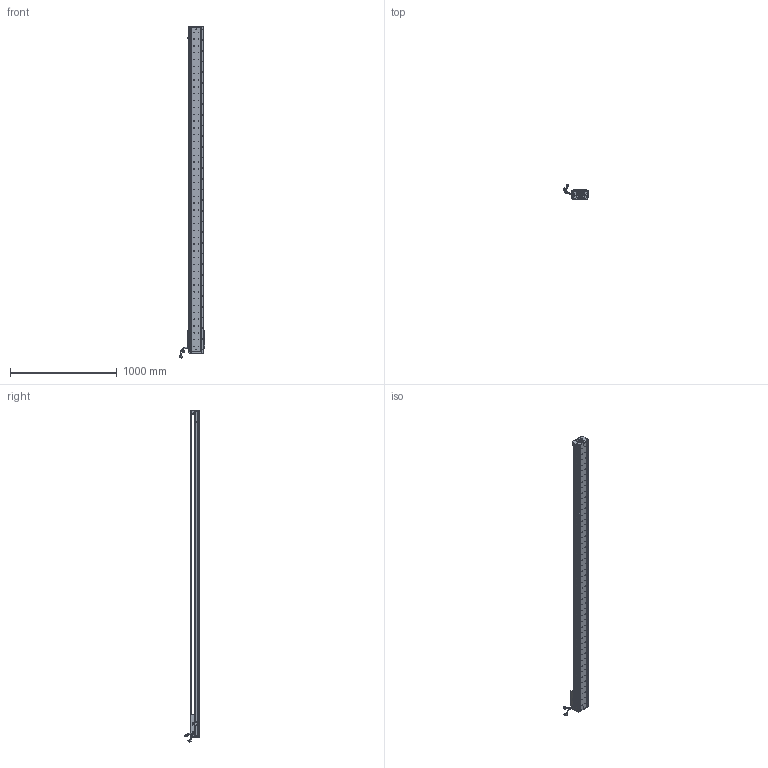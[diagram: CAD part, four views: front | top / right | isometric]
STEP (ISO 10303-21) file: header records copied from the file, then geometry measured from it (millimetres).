
FILE_DESCRIPTION (( 'STEP AP203' ), '1' );
FILE_NAME ('Z2-RY140D-1-L500-B-K.SLDASM_2800.step', '2021-05-17T07:51:16', ( '盈信电脑' ), ( '东莞市道滘镇水果街19号' ), 'SwSTEP 2.0', 'SolidWorks 2016', '' );
FILE_SCHEMA (( 'CONFIG_CONTROL_DESIGN' ));
Length unit declared in the file: millimetre
Products named in the file (36): SCALE-Part-2; SCREW-M1.6-3; PBU_SHEET; SHIELDPLATE; SEAL-Part-1; SCREW-M1.7; Z-RY140詩湍狟揤裔; SCREW-M1.6; 榋妏寠巭燃_暯_M2_2; Z-140詩湍傷裔啣; LABEL-Part-1; 140-Z-臏賑輸盄裔(21遴); COVER; 覜茼ん672; Z2-RY140圉猾敕臏賑輸(21遴); Z-RY140感应器672光电感应片; PSLH080_PSLF2; 140蚥薯蝶輸; HARNESS-Part-2; HOLDER0; COVER-Part-1; HARNESS-Part-1; 140雄赽晤鎢ん堤盄; Z2-RY140D-1-L500-B-K.SLDASM_2800; Z2-RY140-L500詩湍100mm遵_2800; Z-RY140詩湍奻揤裔; HARNESS; LABEL; SCREW-M1.6-1; SCREW-M1.6-2; SEAL; SCALE-Part-1; SCALE; Z2-RY140-L500直线电机模组底座_2800; SCREW-M1.7-1; 080黍杅芛假蚾釱21遴
Assembly tree (41 placements, depth 4):
  Z2-RY140D-1-L500-B-K.SLDASM_2800
    Z2-RY140-L500直线电机模组底座_2800
    Z-RY140感应器672光电感应片
    Z2-RY140圉猾敕臏賑輸(21遴)
    覜茼ん672  x3
    Z2-RY140-L500詩湍100mm遵_2800
    PSLH080_PSLF2
      SCALE
        SCALE-Part-1
        SCALE-Part-2
      HARNESS
        HARNESS-Part-1
        HARNESS-Part-2
      LABEL
        LABEL-Part-1
      COVER
        COVER-Part-1
      SEAL
        SEAL-Part-1
      榋妏寠巭燃_暯_M2_2
      SHIELDPLATE
      SCREW-M1.7
      SCREW-M1.7-1
      PBU_SHEET
      SCREW-M1.6
      SCREW-M1.6-1
      SCREW-M1.6-2
      SCREW-M1.6-3
      HOLDER0
    080黍杅芛假蚾釱21遴
    140-Z-臏賑輸盄裔(21遴)
    Z-140詩湍傷裔啣  x2
    Z-RY140詩湍狟揤裔  x2
    Z-RY140詩湍奻揤裔  x2
    140蚥薯蝶輸  x2
    140雄赽晤鎢ん堤盄
Bounding box: 239.79 x 143.77 x 3110.87 mm (x, y, z)
Volume: 9612002.7 mm3; surface area: 2528850.6 mm2
Topology: 36 solids, 36 shells, 4454 faces, 12202 edges, 7736 vertices
Faces by surface type: cylinder 2468, plane 1436, cone 418, torus 79, bspline 53
Entity records: 143842 total; most frequent: CARTESIAN_POINT 41676, ORIENTED_EDGE 21280, DIRECTION 19402, EDGE_CURVE 10640, AXIS2_PLACEMENT_3D 7230, VERTEX_POINT 6904, VECTOR 4942, LINE 4942
